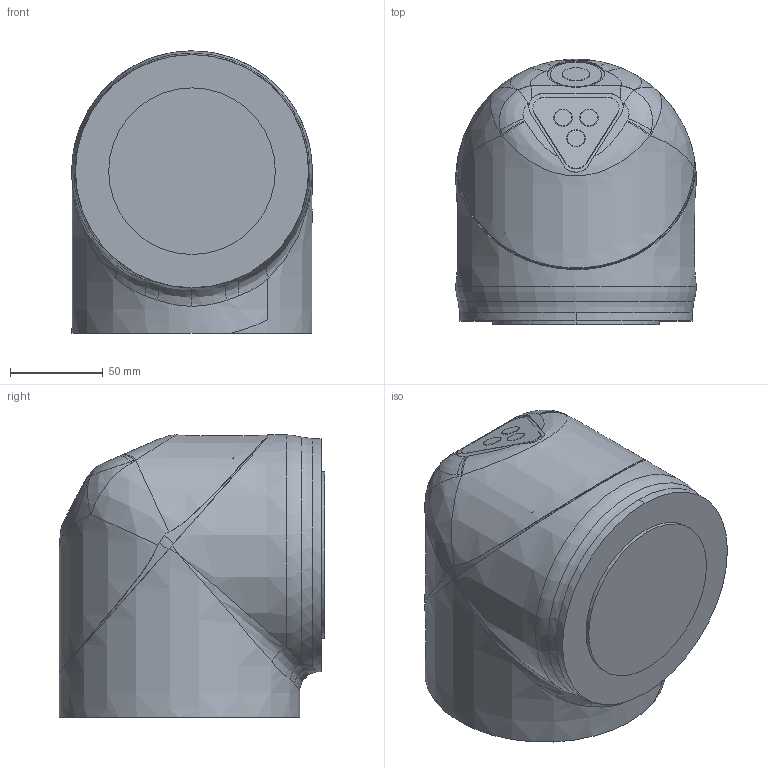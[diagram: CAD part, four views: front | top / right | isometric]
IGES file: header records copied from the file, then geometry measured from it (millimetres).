
Start section:  PTC IGES file: baxis_view_yr-n1-06vxc12-a00_.igs
Global section: file name: baxis_view_yr-n1-06vxc12-a00_.igs; native system: Creo Parametric by PTC Inc.; preprocessor: 2021072; author: yoizumi; organization: Unknown; date: 20250214.090925; units: millimetre
Bounding box: 130 x 143.51 x 152.5 mm (x, y, z)
Volume: 2125038.9 mm3; surface area: 90788.9 mm2
Topology: 1 solids, 1 shells, 106 faces, 254 edges, 159 vertices
Faces by surface type: bspline 73, revolution 33
